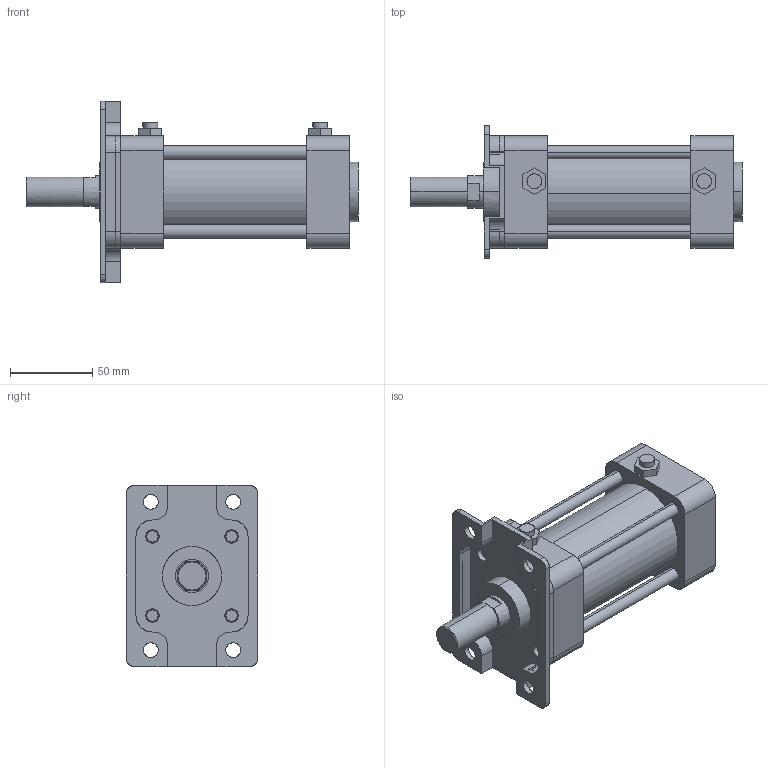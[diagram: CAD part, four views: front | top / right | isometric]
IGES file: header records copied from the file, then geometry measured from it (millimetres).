
Start section: SolidWorks IGES file using analytic representation for surfaces
Global section: file name: C:\Users\Toshiba\Desktop\KG2-50-50-A.IGS; native system: SolidWorks 2014; preprocessor: SolidWorks 2014; author: Toshiba; date: 160401.161109; units: millimetre
Bounding box: 201.5 x 80 x 110 mm (x, y, z)
Surface area: 121026.7 mm2 (no closed solid volume)
Topology: 0 solids, 0 shells, 393 faces, 6212 edges, 6208 vertices
Faces by surface type: bspline 203, revolution 190
